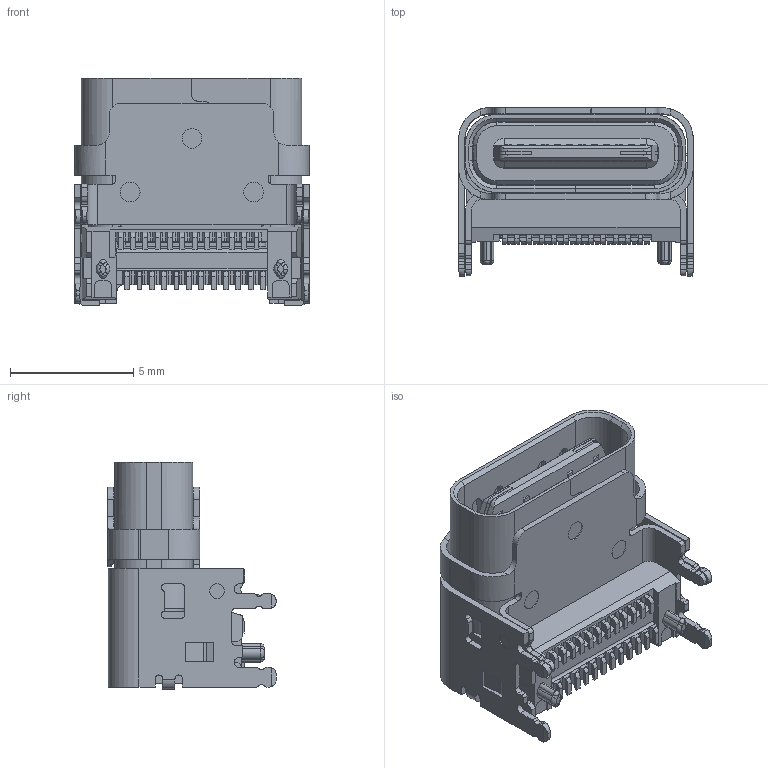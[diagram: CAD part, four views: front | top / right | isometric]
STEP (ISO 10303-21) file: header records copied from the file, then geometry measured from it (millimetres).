
FILE_DESCRIPTION (( 'STEP AP214' ), '1' );
FILE_NAME ('632722200212.STEP', '2025-03-27T07:51:03', ( '' ), ( '' ), 'SwSTEP 2.0', 'SolidWorks 2017', '' );
FILE_SCHEMA (( 'AUTOMOTIVE_DESIGN' ));
Length unit declared in the file: millimetre
Products named in the file (6): 632722200212_Ass_632722200212; 632722200212_Under Shielding; 632722200212_Inner Shielding; 632722200212_Housing; 632722200212_Outer Shielding; 632722200212
Assembly tree (5 placements, depth 3):
  632722200212
    632722200212_Ass_632722200212
      632722200212_Inner Shielding
      632722200212_Housing
      632722200212_Outer Shielding
      632722200212_Under Shielding
Bounding box: 9.51 x 6.82 x 9.2 mm (x, y, z)
Volume: 217.7 mm3; surface area: 1063.1 mm2
Topology: 5 solids, 53 shells, 2070 faces, 5724 edges, 3772 vertices
Faces by surface type: plane 1550, cylinder 484, cone 19, bspline 12, torus 5
Entity records: 76090 total; most frequent: CARTESIAN_POINT 15438, ORIENTED_EDGE 11434, DIRECTION 9562, EDGE_CURVE 5717, LINE 4144, VECTOR 4144, VERTEX_POINT 3772, AXIS2_PLACEMENT_3D 2709
